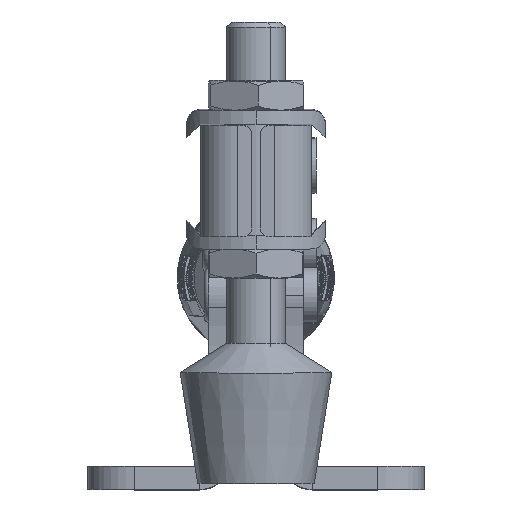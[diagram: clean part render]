
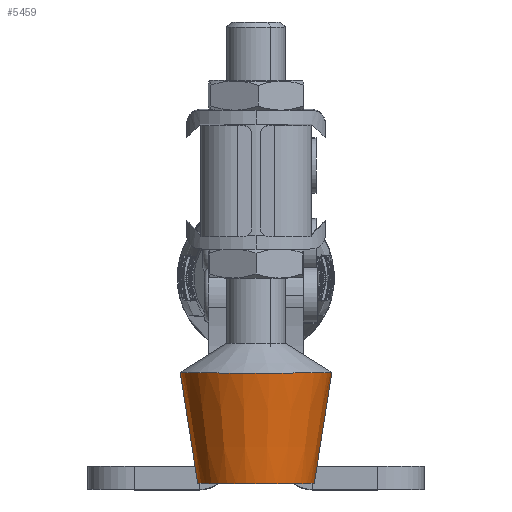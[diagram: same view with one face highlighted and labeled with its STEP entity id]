
A CAD part, top view. The second image highlights one B-rep face of the part: STEP entity #5459.
In plain terms, the highlighted conical face has half-angle 8.973 degrees and reference radius 11.5 mm.
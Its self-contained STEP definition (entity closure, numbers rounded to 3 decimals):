
#5318=DIRECTION('',(-0.156,-0.988,-0.012));
#5319=VECTOR('',#5318,19.235);
#5320=CARTESIAN_POINT('',(13.,38.108,69.695));
#5321=LINE('',#5320,#5319);
#5333=DIRECTION('',(-0.156,0.988,0.012));
#5334=VECTOR('',#5333,19.235);
#5335=CARTESIAN_POINT('',(-10.,19.11,69.467));
#5336=LINE('',#5335,#5334);
#5340=CARTESIAN_POINT('',(0.,19.11,69.467));
#5341=DIRECTION('',(0.,-1.,-0.012));
#5342=DIRECTION('',(1.,0.,0.));
#5343=AXIS2_PLACEMENT_3D('',#5340,#5341,#5342);
#5356=CARTESIAN_POINT('',(0.,38.108,69.695));
#5357=DIRECTION('',(0.,1.,0.012));
#5358=DIRECTION('',(-1.,0.,0.));
#5359=AXIS2_PLACEMENT_3D('',#5356,#5357,#5358);
#5394=CARTESIAN_POINT('',(-10.,19.11,69.467));
#5395=CARTESIAN_POINT('',(10.,19.11,69.467));
#5396=VERTEX_POINT('',#5394);
#5397=VERTEX_POINT('',#5395);
#5402=CARTESIAN_POINT('',(-13.,38.108,69.695));
#5403=VERTEX_POINT('',#5402);
#5404=CARTESIAN_POINT('',(13.,38.108,69.695));
#5405=VERTEX_POINT('',#5404);
#5447=CARTESIAN_POINT('',(0.,28.609,69.581));
#5448=DIRECTION('',(0.,1.,0.012));
#5449=DIRECTION('',(1.,0.,0.));
#5450=AXIS2_PLACEMENT_3D('',#5447,#5448,#5449);
#5451=CONICAL_SURFACE('',#5450,11.5,8.973);
#5452=ORIENTED_EDGE('',*,*,#5417,.T.);
#5454=ORIENTED_EDGE('',*,*,#5453,.T.);
#5455=ORIENTED_EDGE('',*,*,#5413,.T.);
#5456=ORIENTED_EDGE('',*,*,#5434,.T.);
#5457=EDGE_LOOP('',(#5452,#5454,#5455,#5456));
#5458=FACE_OUTER_BOUND('',#5457,.F.);
#5344=CIRCLE('',#5343,10.);
#5360=CIRCLE('',#5359,13.);
#5413=EDGE_CURVE('',#5405,#5397,#5321,.T.);
#5417=EDGE_CURVE('',#5396,#5403,#5336,.T.);
#5434=EDGE_CURVE('',#5397,#5396,#5344,.T.);
#5453=EDGE_CURVE('',#5403,#5405,#5360,.T.);
#5459=ADVANCED_FACE('',(#5458),#5451,.T.);
